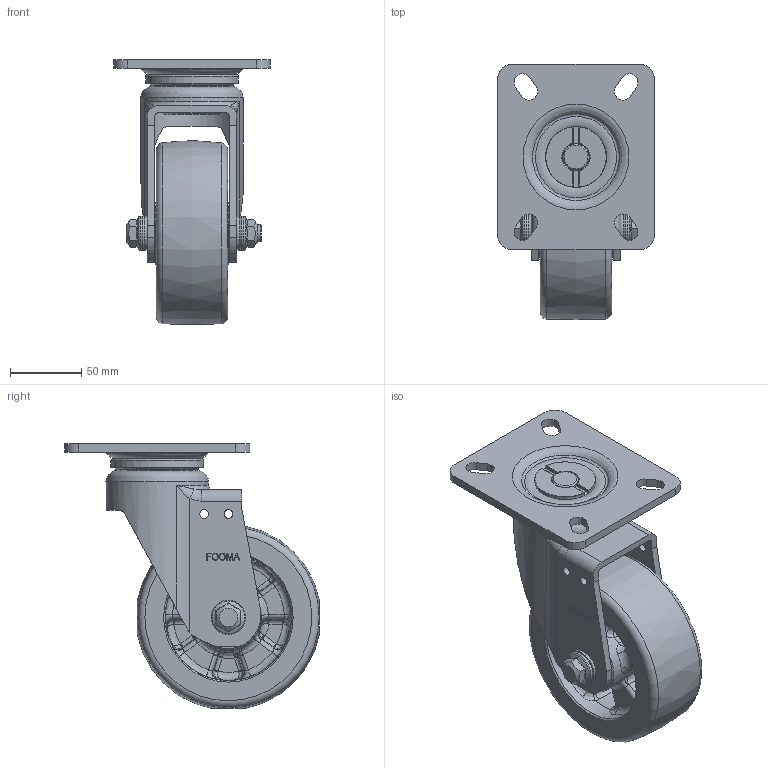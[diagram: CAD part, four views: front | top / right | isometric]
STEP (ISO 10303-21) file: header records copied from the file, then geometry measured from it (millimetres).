
FILE_DESCRIPTION((''),'2;1');
FILE_NAME('C:\Documents and Settings\Administrator\바탕 화면\3D STEP\PHW-SERIES\PHW-130\PHW-130A-SF.stp','2010-12-27T14:50:42',('Administrator'),(''),'Autodesk Inventor 2009','Autodesk Inventor 2009','');
FILE_SCHEMA(('AUTOMOTIVE_DESIGN { 1 0 10303 214 1 1 1 1 }'));
Length unit declared in the file: millimetre
Products named in the file (1): PHW-130A-SF
Bounding box: 110 x 178.91 x 185.89 mm (x, y, z)
Volume: 538189.8 mm3; surface area: 177894.2 mm2
Topology: 8 solids, 10 shells, 841 faces, 2146 edges, 1321 vertices
Faces by surface type: bspline 445, plane 193, cylinder 114, cone 48, torus 41
Full cylindrical faces by diameter (mm): 6.1 x4, 12 x1, 15 x2, 15.2 x2, 18.5 x2, 21.5 x1, 22 x1, 24 x4, 29.9 x1, 30 x1, 30.5 x2, 31.615 x2, 35 x2, 41 x1, 42.8 x1, 44 x2, 48.961 x2, 61 x1, 62 x1, 63.14 x1, 65.14 x1, 72 x1
Entity records: 42821 total; most frequent: CARTESIAN_POINT 25867, ORIENTED_EDGE 3894, DIRECTION 2598, EDGE_CURVE 1947, VERTEX_POINT 1277, AXIS2_PLACEMENT_3D 1036, EDGE_LOOP 1036, FACE_OUTER_BOUND 839
